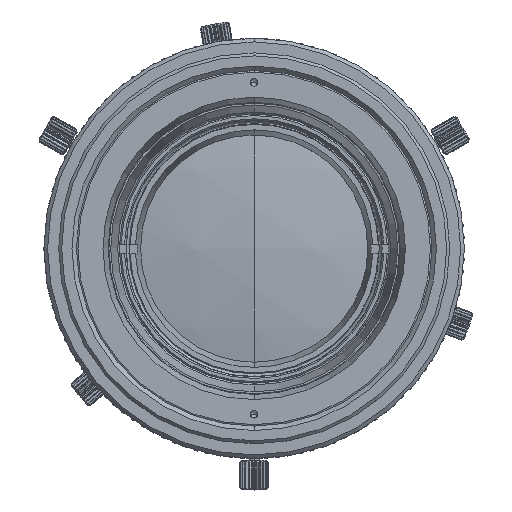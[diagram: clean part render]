
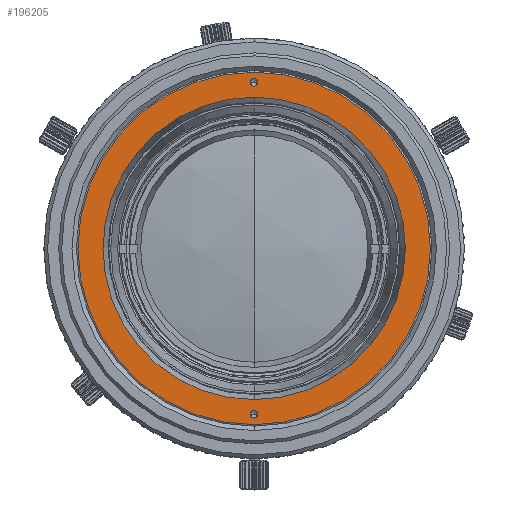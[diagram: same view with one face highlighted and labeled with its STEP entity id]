
A CAD part, top view. The second image highlights one B-rep face of the part: STEP entity #196205.
In plain terms, the highlighted planar face has unit normal (0, 0, 1).
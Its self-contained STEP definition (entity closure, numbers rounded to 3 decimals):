
#195942=CARTESIAN_POINT('',(0.,0.,2.3));
#195943=DIRECTION('',(0.,0.,1.));
#195944=DIRECTION('',(0.,-1.,0.));
#195945=AXIS2_PLACEMENT_3D('',#195942,#195943,#195944);
#195947=CARTESIAN_POINT('',(0.,0.,2.3));
#195948=DIRECTION('',(0.,0.,1.));
#195949=DIRECTION('',(0.,1.,0.));
#195950=AXIS2_PLACEMENT_3D('',#195947,#195948,#195949);
#195952=CARTESIAN_POINT('',(0.,-22.5,2.3));
#195953=DIRECTION('',(0.,0.,-1.));
#195954=DIRECTION('',(-1.,0.,0.));
#195955=AXIS2_PLACEMENT_3D('',#195952,#195953,#195954);
#195957=CARTESIAN_POINT('',(0.,-22.5,2.3));
#195958=DIRECTION('',(0.,0.,-1.));
#195959=DIRECTION('',(1.,0.,0.));
#195960=AXIS2_PLACEMENT_3D('',#195957,#195958,#195959);
#195962=CARTESIAN_POINT('',(0.,22.5,2.3));
#195963=DIRECTION('',(0.,0.,-1.));
#195964=DIRECTION('',(-1.,0.,0.));
#195965=AXIS2_PLACEMENT_3D('',#195962,#195963,#195964);
#195967=CARTESIAN_POINT('',(0.,22.5,2.3));
#195968=DIRECTION('',(0.,0.,-1.));
#195969=DIRECTION('',(1.,0.,0.));
#195970=AXIS2_PLACEMENT_3D('',#195967,#195968,#195969);
#195972=CARTESIAN_POINT('',(0.,0.,2.3));
#195973=DIRECTION('',(0.,0.,-1.));
#195974=DIRECTION('',(0.,-1.,0.));
#195975=AXIS2_PLACEMENT_3D('',#195972,#195973,#195974);
#195977=CARTESIAN_POINT('',(0.,0.,2.3));
#195978=DIRECTION('',(0.,0.,-1.));
#195979=DIRECTION('',(0.,1.,0.));
#195980=AXIS2_PLACEMENT_3D('',#195977,#195978,#195979);
#196080=CARTESIAN_POINT('',(0.,23.894,2.3));
#196081=CARTESIAN_POINT('',(0.,-23.894,2.3));
#196082=VERTEX_POINT('',#196080);
#196083=VERTEX_POINT('',#196081);
#196084=CARTESIAN_POINT('',(0.,-20.5,2.3));
#196086=VERTEX_POINT('',#196084);
#196100=CARTESIAN_POINT('',(0.5,22.5,2.3));
#196102=VERTEX_POINT('',#196100);
#196110=CARTESIAN_POINT('',(-0.5,22.5,2.3));
#196111=VERTEX_POINT('',#196110);
#196112=CARTESIAN_POINT('',(0.,20.5,2.3));
#196113=VERTEX_POINT('',#196112);
#196120=CARTESIAN_POINT('',(-0.5,-22.5,2.3));
#196121=VERTEX_POINT('',#196120);
#196122=CARTESIAN_POINT('',(0.5,-22.5,2.3));
#196123=VERTEX_POINT('',#196122);
#196178=CARTESIAN_POINT('',(0.,23.894,2.3));
#196179=DIRECTION('',(0.,0.,1.));
#196180=DIRECTION('',(0.,-1.,0.));
#196181=AXIS2_PLACEMENT_3D('',#196178,#196179,#196180);
#196182=PLANE('',#196181);
#196184=ORIENTED_EDGE('',*,*,#196183,.F.);
#196186=ORIENTED_EDGE('',*,*,#196185,.F.);
#196187=EDGE_LOOP('',(#196184,#196186));
#196188=FACE_OUTER_BOUND('',#196187,.F.);
#196189=ORIENTED_EDGE('',*,*,#196171,.F.);
#196190=ORIENTED_EDGE('',*,*,#196133,.F.);
#196191=EDGE_LOOP('',(#196189,#196190));
#196192=FACE_BOUND('',#196191,.F.);
#196194=ORIENTED_EDGE('',*,*,#196193,.F.);
#196196=ORIENTED_EDGE('',*,*,#196195,.F.);
#196197=EDGE_LOOP('',(#196194,#196196));
#196198=FACE_BOUND('',#196197,.F.);
#196200=ORIENTED_EDGE('',*,*,#196199,.F.);
#196202=ORIENTED_EDGE('',*,*,#196201,.F.);
#196203=EDGE_LOOP('',(#196200,#196202));
#196204=FACE_BOUND('',#196203,.F.);
#195946=CIRCLE('',#195945,23.894);
#195951=CIRCLE('',#195950,23.894);
#195956=CIRCLE('',#195955,0.5);
#195961=CIRCLE('',#195960,0.5);
#195966=CIRCLE('',#195965,0.5);
#195971=CIRCLE('',#195970,0.5);
#195976=CIRCLE('',#195975,20.5);
#195981=CIRCLE('',#195980,20.5);
#196133=EDGE_CURVE('',#196123,#196121,#195961,.T.);
#196171=EDGE_CURVE('',#196121,#196123,#195956,.T.);
#196183=EDGE_CURVE('',#196083,#196082,#195946,.T.);
#196185=EDGE_CURVE('',#196082,#196083,#195951,.T.);
#196193=EDGE_CURVE('',#196111,#196102,#195966,.T.);
#196195=EDGE_CURVE('',#196102,#196111,#195971,.T.);
#196199=EDGE_CURVE('',#196086,#196113,#195976,.T.);
#196201=EDGE_CURVE('',#196113,#196086,#195981,.T.);
#196205=ADVANCED_FACE('',(#196188,#196192,#196198,#196204),#196182,.T.);
